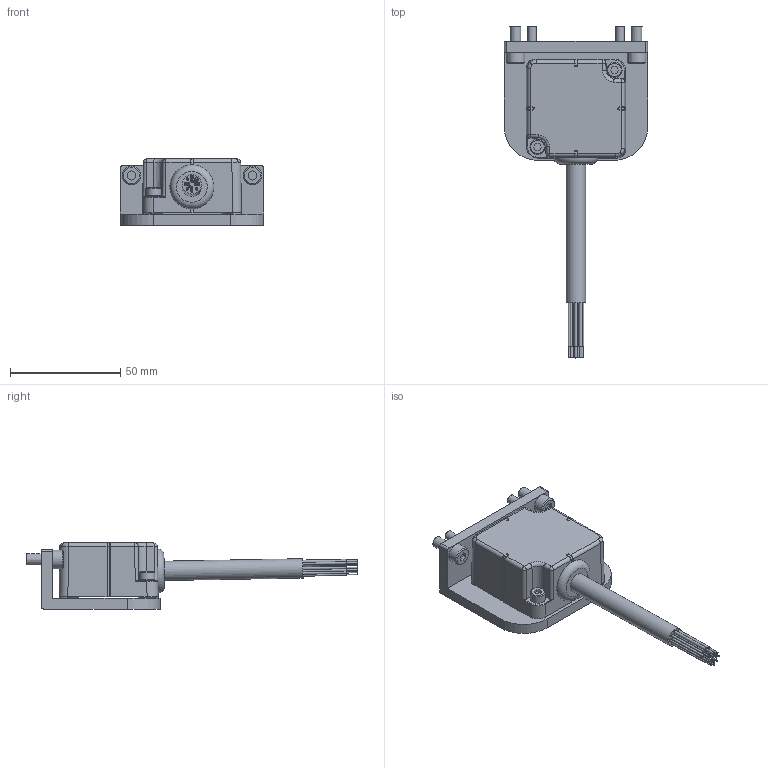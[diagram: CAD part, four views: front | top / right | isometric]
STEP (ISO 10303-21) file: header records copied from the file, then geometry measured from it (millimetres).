
FILE_DESCRIPTION(('STEP AP214'),'1');
FILE_NAME('KHB-45_300HS-NN12,NP12_ver1.stp','2026-04-27T07:44:21',(' '),(' '),'Spatial InterOp 3D',' ',' ');
FILE_SCHEMA(('AUTOMOTIVE_DESIGN { 1 0 10303 214 1 1 1 1 }'));
Length unit declared in the file: millimetre
Products named in the file (3): KHB-45~300HS-NN12,NP12_ver1; パーツ1
Assembly tree (2 placements, depth 2):
  KHB-45~300HS-NN12,NP12_ver1
    パーツ1
    パーツ1
Bounding box: 65 x 150.84 x 30 mm (x, y, z)
Volume: 75940.3 mm3; surface area: 23803.6 mm2
Topology: 2 solids, 5 shells, 282 faces, 623 edges, 402 vertices
Faces by surface type: plane 125, cylinder 108, cone 18, bspline 16, torus 11, sphere 4
Full cylindrical faces by diameter (mm): 0.6 x12, 1 x14, 1.5 x2, 3.3 x4, 4 x4, 4.4 x2, 5.5 x2, 6 x2, 6.9 x2, 8.385 x2, 8.8 x1
Entity records: 10055 total; most frequent: CARTESIAN_POINT 1904, DIRECTION 1235, ORIENTED_EDGE 1072, EDGE_CURVE 536, AXIS2_PLACEMENT_3D 494, EDGE_LOOP 407, VERTEX_POINT 375, FACE_OUTER_BOUND 330
